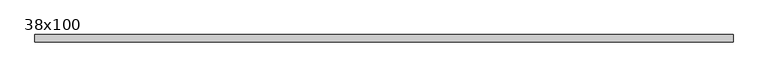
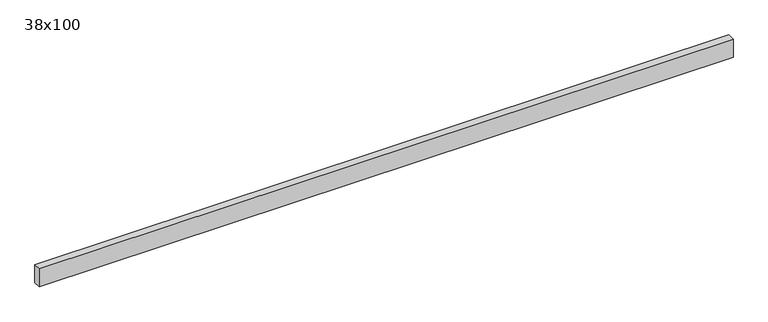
"""IFC4 building model written with IfcOpenShell, lengths in millimetres: beam geometry, Poutre - Bois de construction de dimensions courantes : 38x100."""

from ifc_helpers import new_model, si_unit, frame, origin, place, context, project, spatial, polyline, outline, extrude, source, transform, mapped, element, save


def beam_38x100_19e6d52b(model_context):
    return source(origin(), model_context, "Body", "SweptSolid", [
        extrude(outline(polyline([(1825.0, 19.05), (1825.0, -19.05), (-1825.0, -19.05), (-1825.0, 19.05), (1825.0, 19.05)])), frame((0.0, 0.0, -50.0), z_axis=(0.0, 0.0, 1.0), x_axis=(1.0, 0.0, 0.0)), (0.0, 0.0, 1.0), 100.0),
    ])


if __name__ == "__main__":
    model = new_model("IFC4")
    model_context = context("Model", 3, world=origin())
    ifc_project = project(units=[si_unit("LENGTHUNIT", "METRE", prefix="MILLI")], contexts=[model_context])
    site = spatial("IfcSite", under=ifc_project)
    building = spatial("IfcBuilding", under=site)
    placement = place(None, origin())
    beam_38x100_shape = beam_38x100_19e6d52b(model_context)
    element("IfcBeam", 1, ObjectType="Poutre - Bois de construction de dimensions courantes : 38x100", at=placement, inside=building, context=model_context, shape_type="MappedRepresentation", body=[
        mapped(beam_38x100_shape, transform((0.0, 0.0, 0.0), x_axis=(1.0, 0.0, 0.0), y_axis=(0.0, 1.0, 0.0), z_axis=(0.0, 0.0, 1.0))),
    ])
    save(model, "model.ifc")
